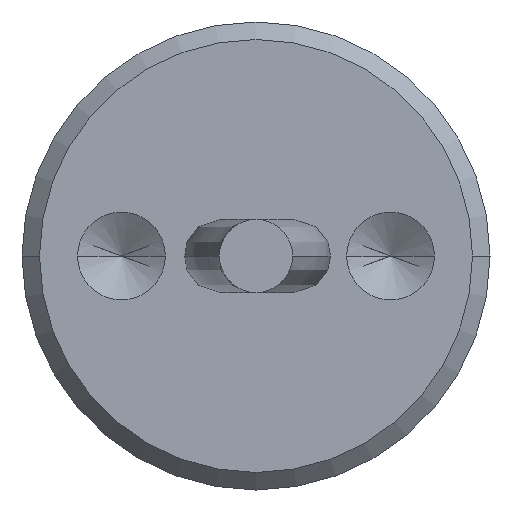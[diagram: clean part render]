
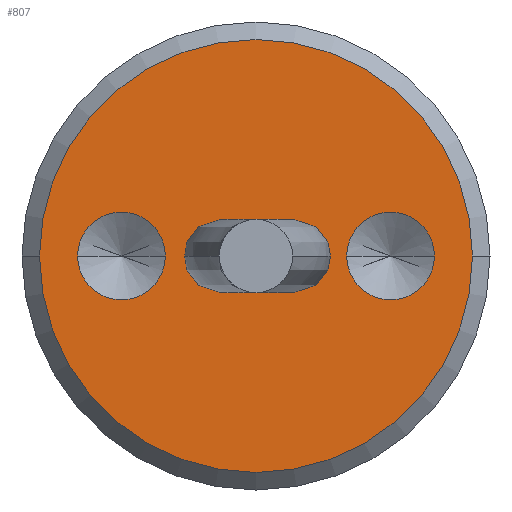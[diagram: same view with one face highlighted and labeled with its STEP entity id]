
A CAD part, left-side view. The second image highlights one B-rep face of the part: STEP entity #807.
In plain terms, the highlighted planar face has unit normal (-1, 0, 0).
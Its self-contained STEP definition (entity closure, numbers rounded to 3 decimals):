
#184=CARTESIAN_POINT('',(0.,2.3,0.));
#185=DIRECTION('',(-1.,0.,0.));
#186=DIRECTION('',(0.,1.,0.));
#187=AXIS2_PLACEMENT_3D('',#184,#185,#186);
#192=CARTESIAN_POINT('',(0.,2.3,0.));
#193=DIRECTION('',(-1.,0.,0.));
#194=DIRECTION('',(0.,-1.,0.));
#195=AXIS2_PLACEMENT_3D('',#192,#193,#194);
#200=CARTESIAN_POINT('',(0.,-2.3,0.));
#201=DIRECTION('',(-1.,0.,0.));
#202=DIRECTION('',(0.,-1.,0.));
#203=AXIS2_PLACEMENT_3D('',#200,#201,#202);
#208=CARTESIAN_POINT('',(0.,-2.3,0.));
#209=DIRECTION('',(-1.,0.,0.));
#210=DIRECTION('',(0.,1.,0.));
#211=AXIS2_PLACEMENT_3D('',#208,#209,#210);
#216=CARTESIAN_POINT('',(0.,0.,0.));
#217=DIRECTION('',(-1.,0.,0.));
#218=DIRECTION('',(0.,1.,0.));
#219=AXIS2_PLACEMENT_3D('',#216,#217,#218);
#224=CARTESIAN_POINT('',(0.,0.,0.));
#225=DIRECTION('',(-1.,0.,0.));
#226=DIRECTION('',(0.,-1.,0.));
#227=AXIS2_PLACEMENT_3D('',#224,#225,#226);
#240=CARTESIAN_POINT('',(0.,0.,0.));
#241=DIRECTION('',(1.,0.,0.));
#242=DIRECTION('',(0.,1.,0.));
#243=AXIS2_PLACEMENT_3D('',#240,#241,#242);
#407=CARTESIAN_POINT('',(0.,0.,0.));
#408=DIRECTION('',(-1.,0.,0.));
#409=DIRECTION('',(0.,1.,0.));
#410=AXIS2_PLACEMENT_3D('',#407,#408,#409);
#590=CARTESIAN_POINT('',(0.,0.625,0.));
#591=CARTESIAN_POINT('',(0.,-0.625,0.));
#592=VERTEX_POINT('',#590);
#593=VERTEX_POINT('',#591);
#600=CARTESIAN_POINT('',(0.,3.05,0.));
#601=CARTESIAN_POINT('',(0.,1.55,0.));
#602=VERTEX_POINT('',#600);
#603=VERTEX_POINT('',#601);
#610=CARTESIAN_POINT('',(0.,-3.05,0.));
#611=CARTESIAN_POINT('',(0.,-1.55,0.));
#612=VERTEX_POINT('',#610);
#613=VERTEX_POINT('',#611);
#614=CARTESIAN_POINT('',(0.,3.7,0.));
#615=CARTESIAN_POINT('',(0.,-3.7,0.));
#616=VERTEX_POINT('',#614);
#617=VERTEX_POINT('',#615);
#779=CARTESIAN_POINT('',(0.,0.,0.));
#780=DIRECTION('',(1.,0.,0.));
#781=DIRECTION('',(0.,-1.,0.));
#782=AXIS2_PLACEMENT_3D('',#779,#780,#781);
#783=PLANE('',#782);
#784=ORIENTED_EDGE('',*,*,#769,.F.);
#786=ORIENTED_EDGE('',*,*,#785,.F.);
#787=EDGE_LOOP('',(#784,#786));
#788=FACE_OUTER_BOUND('',#787,.F.);
#790=ORIENTED_EDGE('',*,*,#789,.T.);
#792=ORIENTED_EDGE('',*,*,#791,.T.);
#793=EDGE_LOOP('',(#790,#792));
#794=FACE_BOUND('',#793,.F.);
#796=ORIENTED_EDGE('',*,*,#795,.T.);
#798=ORIENTED_EDGE('',*,*,#797,.T.);
#799=EDGE_LOOP('',(#796,#798));
#800=FACE_BOUND('',#799,.F.);
#802=ORIENTED_EDGE('',*,*,#801,.F.);
#804=ORIENTED_EDGE('',*,*,#803,.T.);
#805=EDGE_LOOP('',(#802,#804));
#806=FACE_BOUND('',#805,.F.);
#188=CIRCLE('',#187,0.75);
#196=CIRCLE('',#195,0.75);
#204=CIRCLE('',#203,0.75);
#212=CIRCLE('',#211,0.75);
#220=CIRCLE('',#219,3.7);
#228=CIRCLE('',#227,3.7);
#244=CIRCLE('',#243,0.625);
#411=CIRCLE('',#410,0.625);
#769=EDGE_CURVE('',#616,#617,#220,.T.);
#785=EDGE_CURVE('',#617,#616,#228,.T.);
#789=EDGE_CURVE('',#602,#603,#188,.T.);
#791=EDGE_CURVE('',#603,#602,#196,.T.);
#795=EDGE_CURVE('',#612,#613,#204,.T.);
#797=EDGE_CURVE('',#613,#612,#212,.T.);
#801=EDGE_CURVE('',#592,#593,#244,.T.);
#803=EDGE_CURVE('',#592,#593,#411,.T.);
#807=ADVANCED_FACE('',(#788,#794,#800,#806),#783,.F.);
